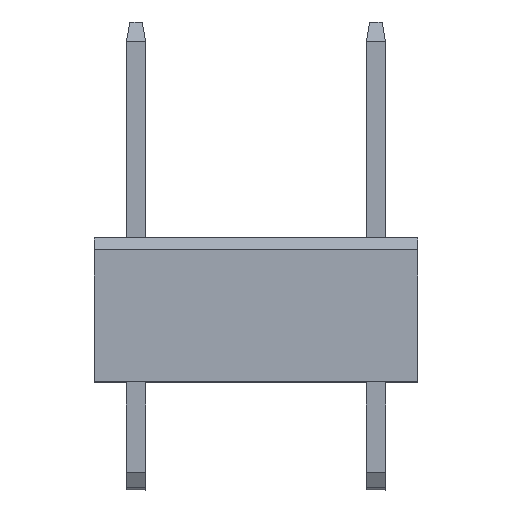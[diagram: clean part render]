
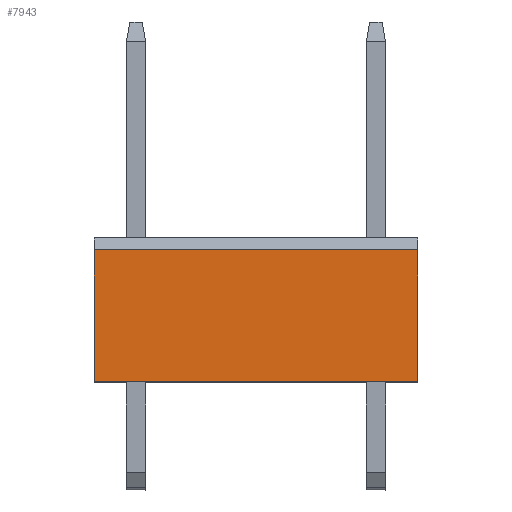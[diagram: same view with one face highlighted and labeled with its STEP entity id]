
A CAD part, top view. The second image highlights one B-rep face of the part: STEP entity #7943.
In plain terms, the highlighted planar face has unit normal (0, 0, 1).
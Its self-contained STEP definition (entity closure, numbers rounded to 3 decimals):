
#836 = VERTEX_POINT ( 'NONE', #3156 ) ;
#862 = EDGE_CURVE ( 'NONE', #836, #7278, #3183, .T. ) ;
#3156 = CARTESIAN_POINT ( 'NONE',  ( 110., 0., 0. ) ) ;
#3180 = DIRECTION ( 'NONE',  ( -1., 0., 0. ) ) ;
#3181 = VECTOR ( 'NONE', #3180, 1000. ) ;
#3182 = CARTESIAN_POINT ( 'NONE',  ( 103.25, 0., 0. ) ) ;
#3183 = LINE ( 'NONE', #3182, #3181 ) ;
#4883 = CARTESIAN_POINT ( 'NONE',  ( 96.5, 5.5, 0. ) ) ;
#4884 = CARTESIAN_POINT ( 'NONE',  ( 96.5, 0., 0. ) ) ;
#4927 = DIRECTION ( 'NONE',  ( 0., 1., 0. ) ) ;
#4928 = VECTOR ( 'NONE', #4927, 1000. ) ;
#4929 = CARTESIAN_POINT ( 'NONE',  ( 96.5, 2.75, 0. ) ) ;
#4930 = LINE ( 'NONE', #4929, #4928 ) ;
#5925 = AXIS2_PLACEMENT_3D ( 'NONE', #5989, #5988, #5987 ) ;
#5927 = PLANE ( 'NONE',  #5925 ) ;
#5928 = FACE_OUTER_BOUND ( 'NONE', #7928, .T. ) ;
#5935 = DIRECTION ( 'NONE',  ( 0., 1., 0. ) ) ;
#5936 = VECTOR ( 'NONE', #5935, 1000. ) ;
#5937 = CARTESIAN_POINT ( 'NONE',  ( 110., 3., 0. ) ) ;
#5938 = LINE ( 'NONE', #5937, #5936 ) ;
#5940 = DIRECTION ( 'NONE',  ( -1., 0., 0. ) ) ;
#5941 = VECTOR ( 'NONE', #5940, 1000. ) ;
#5942 = CARTESIAN_POINT ( 'NONE',  ( 103.25, 5.5, 0. ) ) ;
#5943 = LINE ( 'NONE', #5942, #5941 ) ;
#5944 = CARTESIAN_POINT ( 'NONE',  ( 110., 5.5, 0. ) ) ;
#5987 = DIRECTION ( 'NONE',  ( -1., 0., 0. ) ) ;
#5988 = DIRECTION ( 'NONE',  ( 0., 0., -1. ) ) ;
#5989 = CARTESIAN_POINT ( 'NONE',  ( 110., 0., 0. ) ) ;
#7278 = VERTEX_POINT ( 'NONE', #4884 ) ;
#7279 = VERTEX_POINT ( 'NONE', #4883 ) ;
#7287 = EDGE_CURVE ( 'NONE', #7278, #7279, #4930, .T. ) ;
#7926 = ORIENTED_EDGE ( 'NONE', *, *, #862, .F. ) ;
#7928 = EDGE_LOOP ( 'NONE', ( #7929, #7926, #7935, #7932 ) ) ;
#7929 = ORIENTED_EDGE ( 'NONE', *, *, #7287, .F. ) ;
#7932 = ORIENTED_EDGE ( 'NONE', *, *, #7934, .T. ) ;
#7933 = VERTEX_POINT ( 'NONE', #5944 ) ;
#7934 = EDGE_CURVE ( 'NONE', #7933, #7279, #5943, .T. ) ;
#7935 = ORIENTED_EDGE ( 'NONE', *, *, #7937, .T. ) ;
#7937 = EDGE_CURVE ( 'NONE', #836, #7933, #5938, .T. ) ;
#7943 = ADVANCED_FACE ( 'NONE', ( #5928 ), #5927, .F. ) ;
